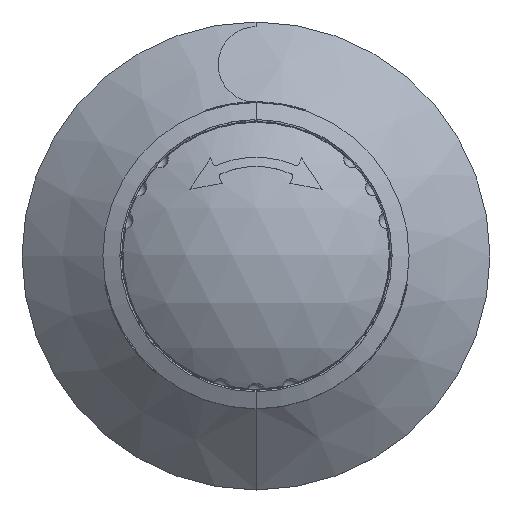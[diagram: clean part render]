
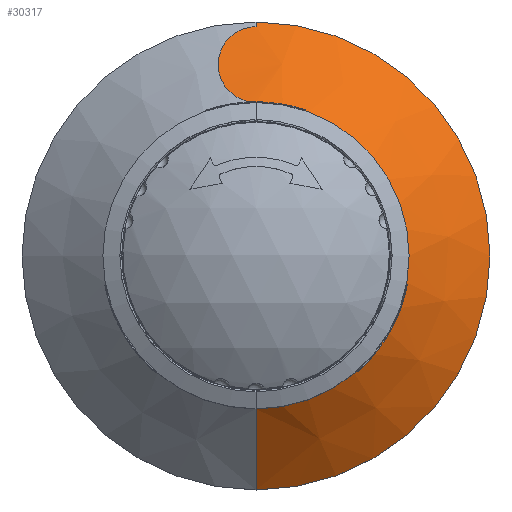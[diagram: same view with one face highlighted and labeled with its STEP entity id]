
A CAD part, top view. The second image highlights one B-rep face of the part: STEP entity #30317.
In plain terms, the highlighted conical face has half-angle 50 degrees and reference radius 22.75 mm.
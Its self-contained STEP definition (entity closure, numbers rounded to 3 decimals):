
#4867=CARTESIAN_POINT('',(-4.45,22.5,-4.516));
#4868=CARTESIAN_POINT('',(-4.443,22.89,
-4.837));
#4869=CARTESIAN_POINT('',(-4.354,23.635,
-5.436));
#4870=CARTESIAN_POINT('',(-3.936,24.666,
-6.228));
#4871=CARTESIAN_POINT('',(-3.322,25.519,
-6.861));
#4872=CARTESIAN_POINT('',(-2.571,26.175,
-7.336));
#4873=CARTESIAN_POINT('',(-1.744,26.629,
-7.659));
#4874=CARTESIAN_POINT('',(-0.877,26.892,
-7.844));
#4875=CARTESIAN_POINT('',(-0.292,26.951,
-7.885));
#4876=CARTESIAN_POINT('',(0.,26.95,-7.885));
#4881=CARTESIAN_POINT('',(-4.362,21.62,
-3.778));
#4882=CARTESIAN_POINT('',(-4.391,21.763,
-3.9));
#4883=CARTESIAN_POINT('',(-4.435,22.053,
-4.146));
#4884=CARTESIAN_POINT('',(-4.45,22.35,
-4.393));
#4885=CARTESIAN_POINT('',(-4.45,22.5,-4.516));
#4890=CARTESIAN_POINT('',(0.,18.05,-0.417));
#4891=CARTESIAN_POINT('',(-0.213,18.05,
-0.416));
#4892=CARTESIAN_POINT('',(-0.635,18.08,
-0.449));
#4893=CARTESIAN_POINT('',(-1.268,18.218,
-0.591));
#4894=CARTESIAN_POINT('',(-1.905,18.458,
-0.839));
#4895=CARTESIAN_POINT('',(-2.536,18.818,
-1.202));
#4896=CARTESIAN_POINT('',(-3.133,19.307,
-1.682));
#4897=CARTESIAN_POINT('',(-3.668,19.932,
-2.276));
#4898=CARTESIAN_POINT('',(-4.109,20.71,
-2.987));
#4899=CARTESIAN_POINT('',(-4.296,21.302,
-3.505));
#4900=CARTESIAN_POINT('',(-4.362,21.62,
-3.778));
#4905=DIRECTION('',(0.,-0.766,0.643));
#4906=VECTOR('',#4905,0.065);
#4907=CARTESIAN_POINT('',(0.,18.05,-0.417));
#4908=LINE('',#4907,#4906);
#4912=DIRECTION('',(0.,-0.766,0.643));
#4913=VECTOR('',#4912,0.718);
#4914=CARTESIAN_POINT('',(0.,27.5,-8.346));
#4915=LINE('',#4914,#4913);
#4919=CARTESIAN_POINT('',(0.,0.,-8.346));
#4920=DIRECTION('',(0.,0.,1.));
#4921=DIRECTION('',(0.,-1.,0.));
#4922=AXIS2_PLACEMENT_3D('',#4919,#4920,#4921);
#4927=DIRECTION('',(0.,-0.766,-0.643));
#4928=VECTOR('',#4927,12.401);
#4929=CARTESIAN_POINT('',(0.,-18.,-0.375));
#4930=LINE('',#4929,#4928);
#4934=CARTESIAN_POINT('',(0.,0.,-0.375));
#4935=DIRECTION('',(0.,0.,-1.));
#4936=DIRECTION('',(0.,1.,0.));
#4937=AXIS2_PLACEMENT_3D('',#4934,#4935,#4936);
#27281=CARTESIAN_POINT('',(0.,27.5,-8.346));
#27283=VERTEX_POINT('',#27281);
#27284=CARTESIAN_POINT('',(0.,-27.5,-8.346));
#27285=VERTEX_POINT('',#27284);
#27288=CARTESIAN_POINT('',(0.,18.,-0.375));
#27289=CARTESIAN_POINT('',(0.,-18.,-0.375));
#27290=VERTEX_POINT('',#27288);
#27291=VERTEX_POINT('',#27289);
#29888=VERTEX_POINT('',#4890);
#29889=VERTEX_POINT('',#4900);
#29890=VERTEX_POINT('',#4885);
#29891=VERTEX_POINT('',#4876);
#30301=CARTESIAN_POINT('',(0.,0.,-4.36));
#30302=DIRECTION('',(0.,0.,-1.));
#30303=DIRECTION('',(0.,1.,0.));
#30304=AXIS2_PLACEMENT_3D('',#30301,#30302,#30303);
#30305=CONICAL_SURFACE('',#30304,22.75,50.);
#30306=ORIENTED_EDGE('',*,*,#30283,.F.);
#30307=ORIENTED_EDGE('',*,*,#30296,.T.);
#30308=ORIENTED_EDGE('',*,*,#30294,.T.);
#30309=ORIENTED_EDGE('',*,*,#30292,.T.);
#30310=ORIENTED_EDGE('',*,*,#30290,.F.);
#30311=ORIENTED_EDGE('',*,*,#30260,.F.);
#30312=ORIENTED_EDGE('',*,*,#30287,.F.);
#30314=ORIENTED_EDGE('',*,*,#30313,.F.);
#30315=EDGE_LOOP('',(#30306,#30307,#30308,#30309,#30310,#30311,#30312,#30314));
#30316=FACE_OUTER_BOUND('',#30315,.F.);
#30317=ADVANCED_FACE('',(#30316),#30305,.T.);
#4877=B_SPLINE_CURVE_WITH_KNOTS('',3,(#4867,#4868,#4869,#4870,#4871,#4872,#4873,
#4874,#4875,#4876),.UNSPECIFIED.,.F.,.F.,(4,1,1,1,1,1,1,4),(0.,
0.143,0.286,0.429,0.571,
0.714,0.857,1.),.UNSPECIFIED.);
#4886=B_SPLINE_CURVE_WITH_KNOTS('',3,(#4881,#4882,#4883,#4884,#4885),
.UNSPECIFIED.,.F.,.F.,(4,1,4),(0.,0.5,1.),.UNSPECIFIED.);
#4901=B_SPLINE_CURVE_WITH_KNOTS('',3,(#4890,#4891,#4892,#4893,#4894,#4895,#4896,
#4897,#4898,#4899,#4900),.UNSPECIFIED.,.F.,.F.,(4,1,1,1,1,1,1,1,4),(0.,
0.125,0.25,0.375,0.5,0.625,0.75,0.875,1.),.UNSPECIFIED.);
#4923=CIRCLE('',#4922,27.5);
#4938=CIRCLE('',#4937,18.);
#30260=EDGE_CURVE('',#27285,#27283,#4923,.T.);
#30283=EDGE_CURVE('',#29888,#27290,#4908,.T.);
#30287=EDGE_CURVE('',#27291,#27285,#4930,.T.);
#30290=EDGE_CURVE('',#27283,#29891,#4915,.T.);
#30292=EDGE_CURVE('',#29890,#29891,#4877,.T.);
#30294=EDGE_CURVE('',#29889,#29890,#4886,.T.);
#30296=EDGE_CURVE('',#29888,#29889,#4901,.T.);
#30313=EDGE_CURVE('',#27290,#27291,#4938,.T.);
